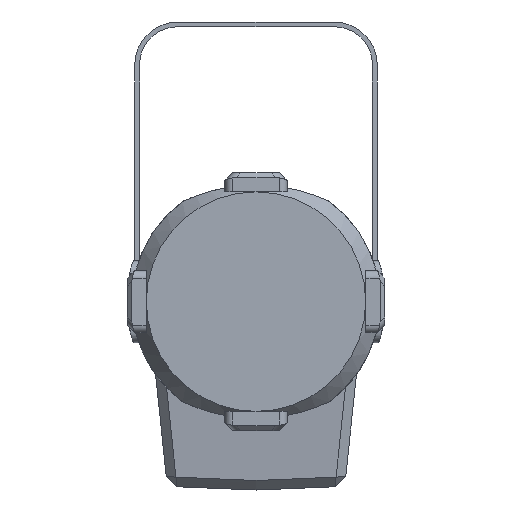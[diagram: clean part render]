
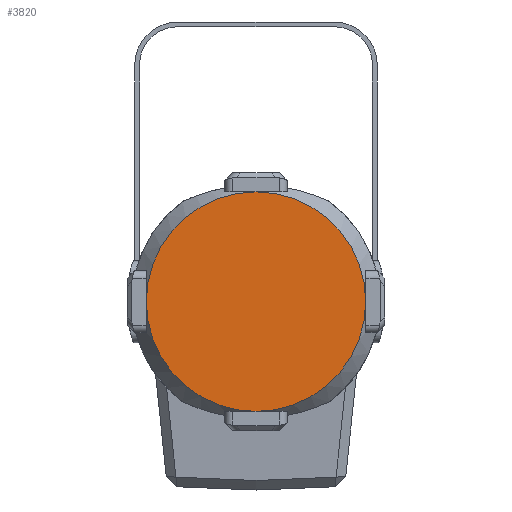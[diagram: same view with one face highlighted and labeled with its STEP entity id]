
A CAD part, front view. The second image highlights one B-rep face of the part: STEP entity #3820.
In plain terms, the highlighted planar face has unit normal (0, -1, 0).
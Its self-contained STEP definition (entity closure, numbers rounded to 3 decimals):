
#94=PLANE('',#4135);
#219=CIRCLE('',#3970,115.);
#221=CIRCLE('',#3972,115.);
#223=CIRCLE('',#3975,115.);
#225=CIRCLE('',#3977,115.);
#1523=ORIENTED_EDGE('',*,*,#2117,.F.);
#1524=ORIENTED_EDGE('',*,*,#2111,.F.);
#1525=ORIENTED_EDGE('',*,*,#2124,.F.);
#1526=ORIENTED_EDGE('',*,*,#2131,.F.);
#2111=EDGE_CURVE('',#2678,#2679,#219,.T.);
#2117=EDGE_CURVE('',#2679,#2684,#221,.T.);
#2124=EDGE_CURVE('',#2689,#2678,#223,.T.);
#2131=EDGE_CURVE('',#2684,#2689,#225,.T.);
#2678=VERTEX_POINT('',#5383);
#2679=VERTEX_POINT('',#5384);
#2684=VERTEX_POINT('',#5411);
#2689=VERTEX_POINT('',#5443);
#3257=EDGE_LOOP('',(#1523,#1524,#1525,#1526));
#3510=FACE_BOUND('',#3257,.T.);
#3820=ADVANCED_FACE('',(#3510),#94,.F.);
#3970=AXIS2_PLACEMENT_3D('',#5382,#4336,#4337);
#3972=AXIS2_PLACEMENT_3D('',#5410,#4340,#4341);
#3975=AXIS2_PLACEMENT_3D('',#5442,#4346,#4347);
#3977=AXIS2_PLACEMENT_3D('',#5473,#4350,#4351);
#4135=AXIS2_PLACEMENT_3D('',#6539,#4791,#4792);
#4336=DIRECTION('',(0.,1.,0.));
#4337=DIRECTION('',(1.,0.,0.));
#4340=DIRECTION('',(0.,1.,0.));
#4341=DIRECTION('',(1.,0.,0.));
#4346=DIRECTION('',(0.,1.,0.));
#4347=DIRECTION('',(1.,0.,0.));
#4350=DIRECTION('',(0.,1.,0.));
#4351=DIRECTION('',(1.,0.,0.));
#4791=DIRECTION('',(0.,1.,0.));
#4792=DIRECTION('',(0.,0.,1.));
#5382=CARTESIAN_POINT('',(0.,-390.,0.));
#5383=CARTESIAN_POINT('',(0.,-390.,115.));
#5384=CARTESIAN_POINT('',(115.,-390.,0.));
#5410=CARTESIAN_POINT('',(0.,-390.,0.));
#5411=CARTESIAN_POINT('',(0.,-390.,-115.));
#5442=CARTESIAN_POINT('',(0.,-390.,0.));
#5443=CARTESIAN_POINT('',(-115.,-390.,0.));
#5473=CARTESIAN_POINT('',(0.,-390.,0.));
#6539=CARTESIAN_POINT('',(0.,-390.,-28.932));
